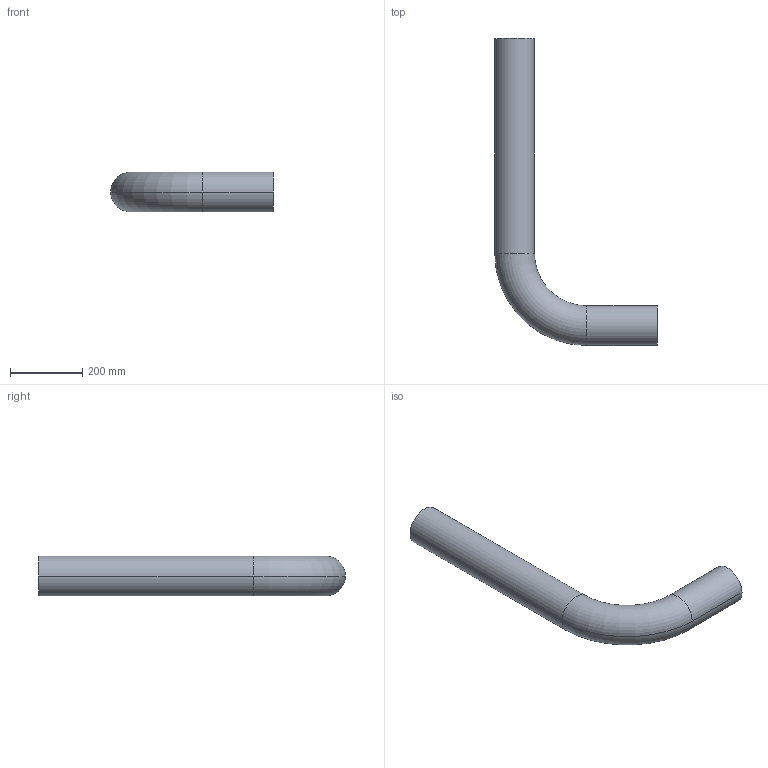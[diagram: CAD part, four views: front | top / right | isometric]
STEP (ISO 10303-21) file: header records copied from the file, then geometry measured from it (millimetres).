
FILE_DESCRIPTION (( 'STEP AP203' ), '1' );
FILE_NAME ('KP_3-110FL.step', '2011-08-08T11:39:42', ( '' ), ( '' ), 'SwSTEP 2.0', 'SolidWorks 2011', '' );
FILE_SCHEMA (( 'CONFIG_CONTROL_DESIGN' ));
Length unit declared in the file: millimetre
Products named in the file (1): KP_3-110FL
Bounding box: 450 x 850 x 110 mm (x, y, z)
Volume: 3624048.3 mm3; surface area: 696859.3 mm2
Topology: 1 solids, 1 shells, 14 faces, 28 edges, 16 vertices
Faces by surface type: cylinder 8, torus 4, plane 2
Entity records: 449 total; most frequent: DIRECTION 78, CARTESIAN_POINT 59, ORIENTED_EDGE 56, AXIS2_PLACEMENT_3D 35, EDGE_CURVE 28, CIRCLE 20, VERTEX_POINT 16, EDGE_LOOP 16
